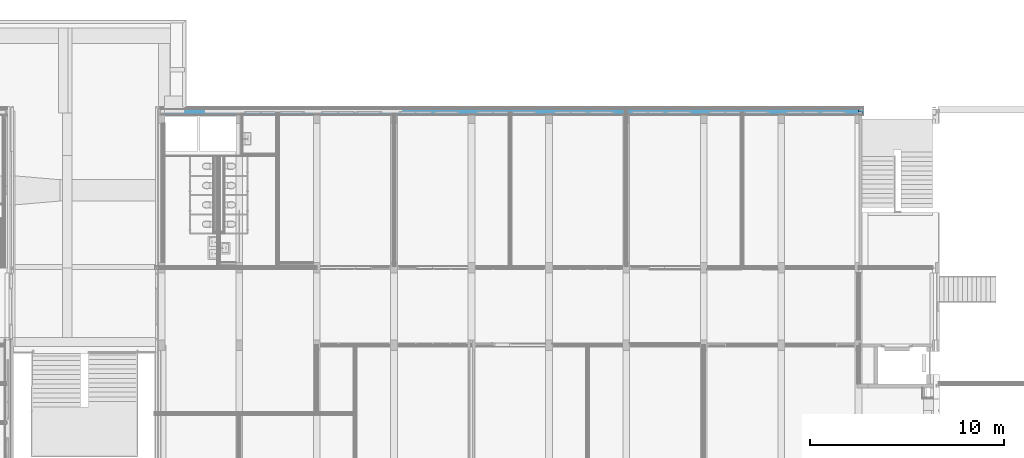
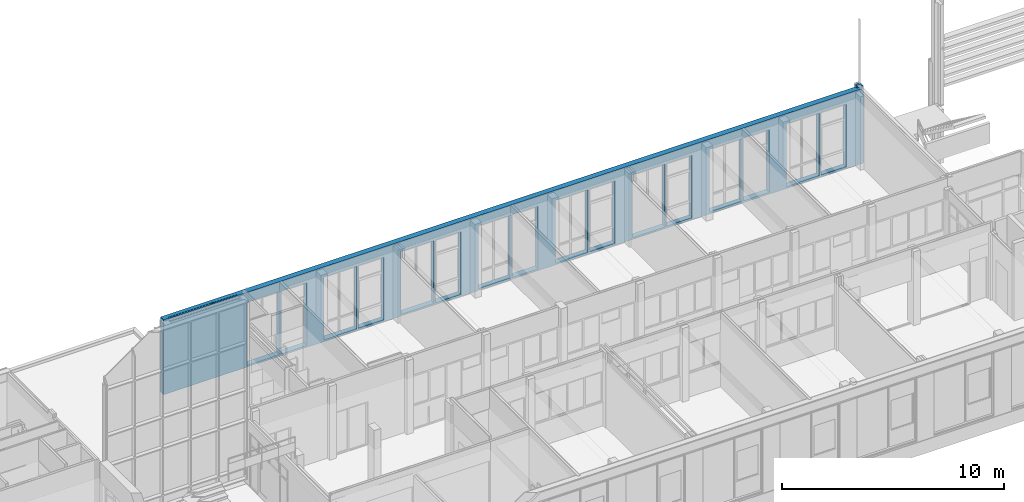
# One storey, part 59 of 94: 1 building element part, 16 openings, 1 element without a shape of its own.
"""IFC2X3 building model written with IfcOpenShell, lengths in millimetres."""

from ifc_helpers import new_model, entity, si_unit, converted_unit, derived_unit, money_unit, direction, frame, origin_with_axes, place, context, subcontext, project, spatial, faceted_brep, material, type_object, element, aggregate, save


model = new_model("IFC2X3")

# Units and contexts
model_context = context("Model", 3, precision=0.01, world=origin_with_axes(), true_north=direction((0.0, 1.0)))
body_context = subcontext(model_context, "Body", "Model", "MODEL_VIEW")
ifc_project = project(units=[si_unit("LENGTHUNIT", "METRE", prefix="MILLI"), si_unit("AREAUNIT", "SQUARE_METRE"), si_unit("VOLUMEUNIT", "CUBIC_METRE"), converted_unit("PLANEANGLEUNIT", "DEGREE", entity("IfcPlaneAngleMeasure", 0.0174532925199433), si_unit("PLANEANGLEUNIT", "RADIAN"), dimensions=[0, 0, 0, 0, 0, 0, 0]), money_unit("EUR"), converted_unit("TIMEUNIT", "Year", entity("IfcTimeMeasure", 31557600.0), si_unit("TIMEUNIT", "SECOND"), dimensions=[0, 0, 1, 0, 0, 0, 0]), si_unit("MASSUNIT", "GRAM", prefix="KILO"), si_unit("THERMODYNAMICTEMPERATUREUNIT", "DEGREE_CELSIUS"), si_unit("LUMINOUSINTENSITYUNIT", "LUMEN"), si_unit("ENERGYUNIT", "JOULE", prefix="MEGA"), derived_unit("THERMALCONDUCTANCEUNIT", [(si_unit("POWERUNIT", "WATT"), 1), (si_unit("LENGTHUNIT", "METRE"), -1), (si_unit("THERMODYNAMICTEMPERATUREUNIT", "KELVIN"), -1)]), derived_unit("SPECIFICHEATCAPACITYUNIT", [(si_unit("ENERGYUNIT", "JOULE"), 1), (si_unit("MASSUNIT", "GRAM", prefix="KILO"), -1), (si_unit("THERMODYNAMICTEMPERATUREUNIT", "KELVIN"), -1)]), derived_unit("MASSDENSITYUNIT", [(si_unit("MASSUNIT", "GRAM", prefix="KILO"), 1), (si_unit("VOLUMEUNIT", "CUBIC_METRE"), -1)])], contexts=[model_context])

# Site, building, storey
site_placement = place(None, origin_with_axes())
site = spatial("IfcSite", under=ifc_project, at=site_placement, Name="<site naam>", CompositionType="ELEMENT")
building_placement = place(site_placement, origin_with_axes())
building = spatial("IfcBuilding", under=site, at=building_placement, Name="<Naam gebouw>", CompositionType="ELEMENT")
storey_placement = place(building_placement, frame((0.0, 0.0, 4250.0), z_axis=(0.0, 0.0, 1.0), x_axis=(1.0, 0.0, 0.0)))
storey = spatial("IfcBuildingStorey", under=building, at=storey_placement, Name="01 1e verdieping", CompositionType="ELEMENT", Elevation=4250.0)

# Wall, openings, building element part
wall_type = type_object("IfcWallType", Name="HSB_285 gevelbeplating 420", PredefinedType="NOTDEFINED")
wall_placement = place(storey_placement, frame((48251.99999966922, 20298.00000000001, 0.0), z_axis=(0.0, 0.0, 1.0), x_axis=(-1.0, 0.0, 0.0)))
wall = element("IfcWall", 1, at=wall_placement, inside=storey, type_object=wall_type, Name="21_Binnenwand_HSB_285")
opening_1_placement = place(wall_placement, frame((3140.999999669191, 0.0, 99.99999999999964), z_axis=(0.0, 0.0, 1.0), x_axis=(1.0, 0.0, 0.0)))
element("IfcOpeningElement", 2, at=opening_1_placement, cuts=wall, Name="21_BU-A-12a sp_305", context=body_context, shape_type="Brep", body=[
    faceted_brep([(850.9999999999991, 213.000000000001, 3450.0), (-850.9999999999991, 213.000000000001, 3450.0), (-850.9999999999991, -1.000000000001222, 3450.0), (850.9999999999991, -1.000000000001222, 3450.0), (850.9999999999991, 421.000000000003, 3450.0), (-850.9999999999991, 421.000000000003, 3450.0), (-850.9999999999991, 213.000000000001, 0.0), (-850.9999999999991, -1.000000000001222, 0.0), (850.9999999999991, -1.000000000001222, 0.0), (850.9999999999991, 213.000000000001, 0.0), (850.9999999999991, 421.000000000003, 0.0), (-850.9999999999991, 421.000000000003, 0.0)], [[[0, 1, 2, 3]], [[1, 0, 4, 5]], [[1, 6, 7, 2]], [[2, 7, 8, 3]], [[9, 0, 3, 8]], [[0, 9, 10, 4]], [[4, 10, 11, 5]], [[6, 1, 5, 11]], [[6, 9, 8, 7]], [[9, 6, 11, 10]]]),
])
opening_2_placement = place(wall_placement, frame((1551.00001094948, 0.0, 99.99999999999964), z_axis=(0.0, 0.0, 1.0), x_axis=(1.0, 0.0, 0.0)))
element("IfcOpeningElement", 3, at=opening_2_placement, cuts=wall, Name="21_BU-A-12b sp_305", context=body_context, shape_type="Brep", body=[
    faceted_brep([(662.9999999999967, 213.000000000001, 3450.0), (-662.9999999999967, 213.000000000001, 3450.0), (-662.9999999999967, -1.000000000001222, 3450.0), (662.9999999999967, -1.000000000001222, 3450.0), (662.9999999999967, 421.000000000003, 3450.0), (-662.9999999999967, 421.000000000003, 3450.0), (-662.9999999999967, 213.000000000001, 0.0), (-662.9999999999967, -1.000000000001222, 0.0), (662.9999999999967, -1.000000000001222, 0.0), (662.9999999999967, 213.000000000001, 0.0), (662.9999999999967, 421.000000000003, 0.0), (-662.9999999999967, 421.000000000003, 0.0)], [[[0, 1, 2, 3]], [[1, 0, 4, 5]], [[1, 6, 7, 2]], [[2, 7, 8, 3]], [[9, 0, 3, 8]], [[0, 9, 10, 4]], [[4, 10, 11, 5]], [[6, 1, 5, 11]], [[6, 9, 8, 7]], [[9, 6, 11, 10]]]),
])
opening_3_placement = place(wall_placement, frame((7140.999999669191, 0.0, 99.99999999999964), z_axis=(0.0, 0.0, 1.0), x_axis=(1.0, 0.0, 0.0)))
element("IfcOpeningElement", 4, at=opening_3_placement, cuts=wall, Name="21_BU-A-12a sp_305", context=body_context, shape_type="Brep", body=[
    faceted_brep([(850.9999999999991, 213.000000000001, 3450.0), (-850.9999999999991, 213.000000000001, 3450.0), (-850.9999999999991, -1.000000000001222, 3450.0), (850.9999999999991, -1.000000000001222, 3450.0), (850.9999999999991, 421.000000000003, 3450.0), (-850.9999999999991, 421.000000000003, 3450.0), (-850.9999999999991, 213.000000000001, 0.0), (-850.9999999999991, -1.000000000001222, 0.0), (850.9999999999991, -1.000000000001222, 0.0), (850.9999999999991, 213.000000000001, 0.0), (850.9999999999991, 421.000000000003, 0.0), (-850.9999999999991, 421.000000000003, 0.0)], [[[0, 1, 2, 3]], [[1, 0, 4, 5]], [[1, 6, 7, 2]], [[2, 7, 8, 3]], [[9, 0, 3, 8]], [[0, 9, 10, 4]], [[4, 10, 11, 5]], [[6, 1, 5, 11]], [[6, 9, 8, 7]], [[9, 6, 11, 10]]]),
])
opening_4_placement = place(wall_placement, frame((9550.999999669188, 0.0, 99.99999999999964), z_axis=(0.0, 0.0, 1.0), x_axis=(1.0, 0.0, 0.0)))
element("IfcOpeningElement", 5, at=opening_4_placement, cuts=wall, Name="21_BU-A-12b sp_305", context=body_context, shape_type="Brep", body=[
    faceted_brep([(662.9999999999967, 213.000000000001, 3450.0), (-662.9999999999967, 213.000000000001, 3450.0), (-662.9999999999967, -1.000000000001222, 3450.0), (662.9999999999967, -1.000000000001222, 3450.0), (662.9999999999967, 421.000000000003, 3450.0), (-662.9999999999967, 421.000000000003, 3450.0), (-662.9999999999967, 213.000000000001, 0.0), (-662.9999999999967, -1.000000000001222, 0.0), (662.9999999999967, -1.000000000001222, 0.0), (662.9999999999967, 213.000000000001, 0.0), (662.9999999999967, 421.000000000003, 0.0), (-662.9999999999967, 421.000000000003, 0.0)], [[[0, 1, 2, 3]], [[1, 0, 4, 5]], [[1, 6, 7, 2]], [[2, 7, 8, 3]], [[9, 0, 3, 8]], [[0, 9, 10, 4]], [[4, 10, 11, 5]], [[6, 1, 5, 11]], [[6, 9, 8, 7]], [[9, 6, 11, 10]]]),
])
opening_5_placement = place(wall_placement, frame((11140.99999966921, 0.0, 99.99999999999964), z_axis=(0.0, 0.0, 1.0), x_axis=(1.0, 0.0, 0.0)))
element("IfcOpeningElement", 6, at=opening_5_placement, cuts=wall, Name="21_BU-A-12a sp_305", context=body_context, shape_type="Brep", body=[
    faceted_brep([(850.9999999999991, 213.000000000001, 3450.0), (-850.9999999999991, 213.000000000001, 3450.0), (-850.9999999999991, -1.000000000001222, 3450.0), (850.9999999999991, -1.000000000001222, 3450.0), (850.9999999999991, 421.000000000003, 3450.0), (-850.9999999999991, 421.000000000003, 3450.0), (-850.9999999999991, 213.000000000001, 0.0), (-850.9999999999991, -1.000000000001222, 0.0), (850.9999999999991, -1.000000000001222, 0.0), (850.9999999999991, 213.000000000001, 0.0), (850.9999999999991, 421.000000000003, 0.0), (-850.9999999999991, 421.000000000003, 0.0)], [[[0, 1, 2, 3]], [[1, 0, 4, 5]], [[1, 6, 7, 2]], [[2, 7, 8, 3]], [[9, 0, 3, 8]], [[0, 9, 10, 4]], [[4, 10, 11, 5]], [[6, 1, 5, 11]], [[6, 9, 8, 7]], [[9, 6, 11, 10]]]),
])
opening_6_placement = place(wall_placement, frame((15140.99998838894, 0.0, 99.99999999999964), z_axis=(0.0, 0.0, 1.0), x_axis=(1.0, 0.0, 0.0)))
element("IfcOpeningElement", 7, at=opening_6_placement, cuts=wall, Name="21_BU-A-12a sp_305", context=body_context, shape_type="Brep", body=[
    faceted_brep([(850.9999999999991, 212.9999999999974, 3450.0), (-850.9999999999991, 212.9999999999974, 3450.0), (-850.9999999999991, -1.000000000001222, 3450.0), (850.9999999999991, -1.000000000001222, 3450.0), (850.9999999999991, 421.000000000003, 3450.0), (-850.9999999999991, 421.000000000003, 3450.0), (-850.9999999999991, 212.9999999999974, 0.0), (-850.9999999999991, -1.000000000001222, 0.0), (850.9999999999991, -1.000000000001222, 0.0), (850.9999999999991, 212.9999999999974, 0.0), (850.9999999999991, 421.000000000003, 0.0), (-850.9999999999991, 421.000000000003, 0.0)], [[[0, 1, 2, 3]], [[1, 0, 4, 5]], [[1, 6, 7, 2]], [[2, 7, 8, 3]], [[9, 0, 3, 8]], [[0, 9, 10, 4]], [[4, 10, 11, 5]], [[6, 1, 5, 11]], [[6, 9, 8, 7]], [[9, 6, 11, 10]]]),
])
opening_7_placement = place(wall_placement, frame((13550.99999966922, 0.0, 99.99999999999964), z_axis=(0.0, 0.0, 1.0), x_axis=(1.0, 0.0, 0.0)))
element("IfcOpeningElement", 8, at=opening_7_placement, cuts=wall, Name="21_BU-A-12b sp_305", context=body_context, shape_type="Brep", body=[
    faceted_brep([(662.9999999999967, 213.000000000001, 3450.0), (-662.9999999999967, 213.000000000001, 3450.0), (-662.9999999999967, -1.000000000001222, 3450.0), (662.9999999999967, -1.000000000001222, 3450.0), (662.9999999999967, 421.000000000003, 3450.0), (-662.9999999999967, 421.000000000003, 3450.0), (-662.9999999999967, 213.000000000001, 0.0), (-662.9999999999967, -1.000000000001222, 0.0), (662.9999999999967, -1.000000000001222, 0.0), (662.9999999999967, 213.000000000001, 0.0), (662.9999999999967, 421.000000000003, 0.0), (-662.9999999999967, 421.000000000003, 0.0)], [[[0, 1, 2, 3]], [[1, 0, 4, 5]], [[1, 6, 7, 2]], [[2, 7, 8, 3]], [[9, 0, 3, 8]], [[0, 9, 10, 4]], [[4, 10, 11, 5]], [[6, 1, 5, 11]], [[6, 9, 8, 7]], [[9, 6, 11, 10]]]),
])
opening_8_placement = place(wall_placement, frame((19140.98053610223, 0.0, 99.99999999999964), z_axis=(0.0, 0.0, 1.0), x_axis=(1.0, 0.0, 0.0)))
element("IfcOpeningElement", 9, at=opening_8_placement, cuts=wall, Name="21_BU-A-12a sp_305", context=body_context, shape_type="Brep", body=[
    faceted_brep([(850.9999999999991, 212.9999999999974, 3450.0), (-850.9999999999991, 212.9999999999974, 3450.0), (-850.9999999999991, -1.000000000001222, 3450.0), (850.9999999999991, -1.000000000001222, 3450.0), (850.9999999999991, 421.000000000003, 3450.0), (-850.9999999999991, 421.000000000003, 3450.0), (-850.9999999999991, 212.9999999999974, 0.0), (-850.9999999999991, -1.000000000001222, 0.0), (850.9999999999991, -1.000000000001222, 0.0), (850.9999999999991, 212.9999999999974, 0.0), (850.9999999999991, 421.000000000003, 0.0), (-850.9999999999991, 421.000000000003, 0.0)], [[[0, 1, 2, 3]], [[1, 0, 4, 5]], [[1, 6, 7, 2]], [[2, 7, 8, 3]], [[9, 0, 3, 8]], [[0, 9, 10, 4]], [[4, 10, 11, 5]], [[6, 1, 5, 11]], [[6, 9, 8, 7]], [[9, 6, 11, 10]]]),
])
opening_9_placement = place(wall_placement, frame((17550.99999966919, 0.0, 99.99999999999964), z_axis=(0.0, 0.0, 1.0), x_axis=(1.0, 0.0, 0.0)))
element("IfcOpeningElement", 10, at=opening_9_placement, cuts=wall, Name="21_BU-A-12b sp_305", context=body_context, shape_type="Brep", body=[
    faceted_brep([(663.0000000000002, 212.9999999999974, 3450.0), (-663.0000000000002, 212.9999999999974, 3450.0), (-663.0000000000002, -1.000000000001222, 3450.0), (663.0000000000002, -1.000000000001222, 3450.0), (663.0000000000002, 421.000000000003, 3450.0), (-663.0000000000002, 421.000000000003, 3450.0), (-663.0000000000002, 212.9999999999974, 0.0), (-663.0000000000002, -1.000000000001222, 0.0), (663.0000000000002, -1.000000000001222, 0.0), (663.0000000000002, 212.9999999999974, 0.0), (663.0000000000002, 421.000000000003, 0.0), (-663.0000000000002, 421.000000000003, 0.0)], [[[0, 1, 2, 3]], [[1, 0, 4, 5]], [[1, 6, 7, 2]], [[2, 7, 8, 3]], [[9, 0, 3, 8]], [[0, 9, 10, 4]], [[4, 10, 11, 5]], [[6, 1, 5, 11]], [[6, 9, 8, 7]], [[9, 6, 11, 10]]]),
])
opening_10_placement = place(wall_placement, frame((5550.999999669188, 0.0, 99.99999999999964), z_axis=(0.0, 0.0, 1.0), x_axis=(1.0, 0.0, 0.0)))
element("IfcOpeningElement", 11, at=opening_10_placement, cuts=wall, Name="21_BU-A-12b sp_305", context=body_context, shape_type="Brep", body=[
    faceted_brep([(662.9999999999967, 213.000000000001, 3450.0), (-662.9999999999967, 213.000000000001, 3450.0), (-662.9999999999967, -1.000000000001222, 3450.0), (662.9999999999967, -1.000000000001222, 3450.0), (662.9999999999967, 421.000000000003, 3450.0), (-662.9999999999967, 421.000000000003, 3450.0), (-662.9999999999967, 213.000000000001, 0.0), (-662.9999999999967, -1.000000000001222, 0.0), (662.9999999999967, -1.000000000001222, 0.0), (662.9999999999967, 213.000000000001, 0.0), (662.9999999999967, 421.000000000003, 0.0), (-662.9999999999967, 421.000000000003, 0.0)], [[[0, 1, 2, 3]], [[1, 0, 4, 5]], [[1, 6, 7, 2]], [[2, 7, 8, 3]], [[9, 0, 3, 8]], [[0, 9, 10, 4]], [[4, 10, 11, 5]], [[6, 1, 5, 11]], [[6, 9, 8, 7]], [[9, 6, 11, 10]]]),
])
opening_11_placement = place(wall_placement, frame((23141.0125073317, 0.0, 99.99999999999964), z_axis=(0.0, 0.0, 1.0), x_axis=(1.0, 0.0, 0.0)))
element("IfcOpeningElement", 12, at=opening_11_placement, cuts=wall, Name="21_BU-A-12a sp_305", context=body_context, shape_type="Brep", body=[
    faceted_brep([(850.9999999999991, 212.9999999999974, 3450.0), (-850.9999999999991, 212.9999999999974, 3450.0), (-850.9999999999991, -1.000000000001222, 3450.0), (850.9999999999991, -1.000000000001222, 3450.0), (850.9999999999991, 421.000000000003, 3450.0), (-850.9999999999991, 421.000000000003, 3450.0), (-850.9999999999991, 212.9999999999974, 0.0), (-850.9999999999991, -1.000000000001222, 0.0), (850.9999999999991, -1.000000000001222, 0.0), (850.9999999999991, 212.9999999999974, 0.0), (850.9999999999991, 421.000000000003, 0.0), (-850.9999999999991, 421.000000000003, 0.0)], [[[0, 1, 2, 3]], [[1, 0, 4, 5]], [[1, 6, 7, 2]], [[2, 7, 8, 3]], [[9, 0, 3, 8]], [[0, 9, 10, 4]], [[4, 10, 11, 5]], [[6, 1, 5, 11]], [[6, 9, 8, 7]], [[9, 6, 11, 10]]]),
])
opening_12_placement = place(wall_placement, frame((21550.98053610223, 0.0, 99.99999999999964), z_axis=(0.0, 0.0, 1.0), x_axis=(1.0, 0.0, 0.0)))
element("IfcOpeningElement", 13, at=opening_12_placement, cuts=wall, Name="21_BU-A-12b sp_305", context=body_context, shape_type="Brep", body=[
    faceted_brep([(663.0000000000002, 212.9999999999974, 3450.0), (-663.0000000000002, 212.9999999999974, 3450.0), (-663.0000000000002, -1.000000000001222, 3450.0), (663.0000000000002, -1.000000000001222, 3450.0), (663.0000000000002, 421.000000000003, 3450.0), (-663.0000000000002, 421.000000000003, 3450.0), (-663.0000000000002, 212.9999999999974, 0.0), (-663.0000000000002, -1.000000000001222, 0.0), (663.0000000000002, -1.000000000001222, 0.0), (663.0000000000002, 212.9999999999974, 0.0), (663.0000000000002, 421.000000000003, 0.0), (-663.0000000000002, 421.000000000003, 0.0)], [[[0, 1, 2, 3]], [[1, 0, 4, 5]], [[1, 6, 7, 2]], [[2, 7, 8, 3]], [[9, 0, 3, 8]], [[0, 9, 10, 4]], [[4, 10, 11, 5]], [[6, 1, 5, 11]], [[6, 9, 8, 7]], [[9, 6, 11, 10]]]),
])
opening_13_placement = place(wall_placement, frame((25550.99999966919, 0.0, 99.99999999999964), z_axis=(0.0, 0.0, 1.0), x_axis=(1.0, 0.0, 0.0)))
element("IfcOpeningElement", 14, at=opening_13_placement, cuts=wall, Name="21_BU-A-12b sp_305", context=body_context, shape_type="Brep", body=[
    faceted_brep([(663.0000000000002, 212.9999999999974, 3450.0), (-663.0000000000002, 212.9999999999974, 3450.0), (-663.0000000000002, -1.000000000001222, 3450.0), (663.0000000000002, -1.000000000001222, 3450.0), (663.0000000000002, 421.000000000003, 3450.0), (-663.0000000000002, 421.000000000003, 3450.0), (-663.0000000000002, 212.9999999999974, 0.0), (-663.0000000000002, -1.000000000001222, 0.0), (663.0000000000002, -1.000000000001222, 0.0), (663.0000000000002, 212.9999999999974, 0.0), (663.0000000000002, 421.000000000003, 0.0), (-663.0000000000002, 421.000000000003, 0.0)], [[[0, 1, 2, 3]], [[1, 0, 4, 5]], [[1, 6, 7, 2]], [[2, 7, 8, 3]], [[9, 0, 3, 8]], [[0, 9, 10, 4]], [[4, 10, 11, 5]], [[6, 1, 5, 11]], [[6, 9, 8, 7]], [[9, 6, 11, 10]]]),
])
opening_14_placement = place(wall_placement, frame((27140.99999966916, 0.0, 99.99999999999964), z_axis=(0.0, 0.0, 1.0), x_axis=(1.0, 0.0, 0.0)))
element("IfcOpeningElement", 15, at=opening_14_placement, cuts=wall, Name="21_BU-A-12a sp_305", context=body_context, shape_type="Brep", body=[
    faceted_brep([(850.9999999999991, 212.9999999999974, 3450.0), (-850.9999999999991, 212.9999999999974, 3450.0), (-850.9999999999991, -1.000000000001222, 3450.0), (850.9999999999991, -1.000000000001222, 3450.0), (850.9999999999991, 421.000000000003, 3450.0), (-850.9999999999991, 421.000000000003, 3450.0), (-850.9999999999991, 212.9999999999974, 0.0), (-850.9999999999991, -1.000000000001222, 0.0), (850.9999999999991, -1.000000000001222, 0.0), (850.9999999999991, 212.9999999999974, 0.0), (850.9999999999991, 421.000000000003, 0.0), (-850.9999999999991, 421.000000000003, 0.0)], [[[0, 1, 2, 3]], [[1, 0, 4, 5]], [[1, 6, 7, 2]], [[2, 7, 8, 3]], [[9, 0, 3, 8]], [[0, 9, 10, 4]], [[4, 10, 11, 5]], [[6, 1, 5, 11]], [[6, 9, 8, 7]], [[9, 6, 11, 10]]]),
])
opening_15_placement = place(wall_placement, frame((29551.00001094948, 0.0, 99.99999999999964), z_axis=(0.0, 0.0, 1.0), x_axis=(1.0, 0.0, 0.0)))
element("IfcOpeningElement", 16, at=opening_15_placement, cuts=wall, Name="21_BU-A-12b sp_305", context=body_context, shape_type="Brep", body=[
    faceted_brep([(663.0000000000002, 212.9999999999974, 3450.0), (-663.0000000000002, 212.9999999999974, 3450.0), (-663.0000000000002, -1.000000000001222, 3450.0), (663.0000000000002, -1.000000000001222, 3450.0), (663.0000000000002, 421.000000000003, 3450.0), (-663.0000000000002, 421.000000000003, 3450.0), (-663.0000000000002, 212.9999999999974, 0.0), (-663.0000000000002, -1.000000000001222, 0.0), (663.0000000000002, -1.000000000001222, 0.0), (663.0000000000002, 212.9999999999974, 0.0), (663.0000000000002, 421.000000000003, 0.0), (-663.0000000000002, 421.000000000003, 0.0)], [[[0, 1, 2, 3]], [[1, 0, 4, 5]], [[1, 6, 7, 2]], [[2, 7, 8, 3]], [[9, 0, 3, 8]], [[0, 9, 10, 4]], [[4, 10, 11, 5]], [[6, 1, 5, 11]], [[6, 9, 8, 7]], [[9, 6, 11, 10]]]),
])
opening_16_placement = place(wall_placement, frame((31140.99998838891, 0.0, 99.99999999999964), z_axis=(0.0, 0.0, 1.0), x_axis=(1.0, 0.0, 0.0)))
element("IfcOpeningElement", 17, at=opening_16_placement, cuts=wall, Name="21_BU-A-12a sp_305", context=body_context, shape_type="Brep", body=[
    faceted_brep([(850.9999999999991, 212.9999999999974, 3450.0), (-850.9999999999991, 212.9999999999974, 3450.0), (-850.9999999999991, -1.000000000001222, 3450.0), (850.9999999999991, -1.000000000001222, 3450.0), (850.9999999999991, 421.000000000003, 3450.0), (-850.9999999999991, 421.000000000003, 3450.0), (-850.9999999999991, 212.9999999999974, 0.0), (-850.9999999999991, -1.000000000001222, 0.0), (850.9999999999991, -1.000000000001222, 0.0), (850.9999999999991, 212.9999999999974, 0.0), (850.9999999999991, 421.000000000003, 0.0), (-850.9999999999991, 421.000000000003, 0.0)], [[[0, 1, 2, 3]], [[1, 0, 4, 5]], [[1, 6, 7, 2]], [[2, 7, 8, 3]], [[9, 0, 3, 8]], [[0, 9, 10, 4]], [[4, 10, 11, 5]], [[6, 1, 5, 11]], [[6, 9, 8, 7]], [[9, 6, 11, 10]]]),
])
ifc_material = material(Name="isolatie_houtvezel")
building_element_part_placement = place(wall_placement, origin_with_axes())
building_element_part = element("IfcBuildingElementPart", 18, at=building_element_part_placement, material=ifc_material, Name="isolatie_houtvezel", context=body_context, shape_type="Brep", body=[
    faceted_brep([(251.999999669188, 133.0000071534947, 4250.0), (251.999999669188, 232.9999999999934, 4250.0), (76.92214540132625, 232.9999999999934, 4250.0), (76.92214540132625, 391.9999999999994, 4250.0), (0.0, 391.9999999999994, 4250.0), (0.0, 106.9999999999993, 4250.0), (251.999999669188, 106.9999999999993, 4250.0), (251.999999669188, 106.9999999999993, 4220.000000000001), (251.999999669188, 107.0000000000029, 4100.0), (251.999999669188, 232.9999999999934, 4100.0), (76.92214540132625, 232.9999999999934, 4100.0), (76.92214540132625, 392.000000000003, 4100.0), (36076.99999966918, 391.9999999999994, 4100.0), (36316.99999966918, 391.9999999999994, 4100.0), (36316.99999966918, 391.9999999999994, 0.0), (32077.00006361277, 391.9999999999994, 0.0), (32077.00006361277, 391.9999999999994, 3.000000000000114), (30327.06166482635, 391.9999999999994, 3.000000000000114), (30327.06166482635, 391.9999999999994, 0.0), (24076.99999971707, 391.9999999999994, 0.0), (24076.99999971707, 391.9999999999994, 3.000000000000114), (20427.00000146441, 392.000000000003, 3.000000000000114), (20427.00000146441, 391.9999999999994, 0.0), (20076.98057049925, 391.9999999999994, 0.0), (20076.98057049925, 391.9999999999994, 3.000000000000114), (18326.86255402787, 392.000000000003, 3.000000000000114), (18326.86255402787, 391.9999999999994, 0.0), (18176.86513133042, 391.9999999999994, 0.0), (18176.86513133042, 391.9999999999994, 3.000000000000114), (16426.99993484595, 392.000000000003, 3.000000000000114), (16426.99993484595, 391.9999999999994, 0.0), (16076.99985984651, 391.9999999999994, 0.0), (16076.99985984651, 391.9999999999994, 3.000000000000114), (12426.99985761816, 392.000000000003, 3.000000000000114), (12426.99985761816, 391.9999999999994, 0.0), (0.0, 391.9999999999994, 0.0), (32426.99999966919, 391.9999999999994, 4100.0), (32426.99999966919, 391.9999999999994, 4090.499903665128), (36076.99999966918, 391.9999999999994, 4090.499903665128), (28077.00005377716, 391.9999999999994, 22.99999999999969), (24427.00006108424, 391.9999999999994, 22.99999999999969), (24427.00006108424, 391.9999999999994, 19.99999999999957), (28077.00005377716, 391.9999999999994, 19.99999999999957), (30177.06159675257, 391.9999999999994, 22.99999999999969), (28426.99998301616, 391.9999999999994, 22.99999999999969), (28426.99998301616, 391.9999999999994, 19.99999999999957), (30177.06159675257, 391.9999999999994, 19.99999999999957), (8077.00010120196, 392.000000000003, 22.99999999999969), (6326.99981685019, 392.000000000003, 22.99999999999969), (6326.99981685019, 392.000000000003, 19.99999999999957), (8077.00010120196, 392.000000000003, 19.99999999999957), (12076.9999884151, 391.9999999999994, 22.99999999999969), (8427.000063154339, 392.000000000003, 22.99999999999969), (8427.000063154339, 392.000000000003, 19.99999999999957), (12076.9999884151, 392.000000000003, 19.99999999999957), (4076.999959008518, 392.000000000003, 22.99999999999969), (427.0000192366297, 392.000000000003, 22.99999999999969), (427.0000192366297, 392.000000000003, 19.99999999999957), (4076.999959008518, 392.000000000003, 19.99999999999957), (6176.999971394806, 392.000000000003, 22.99999999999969), (4426.999980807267, 392.000000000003, 22.99999999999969), (4426.999980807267, 392.000000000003, 19.99999999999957), (6176.999971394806, 392.000000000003, 19.99999999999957), (32426.99999966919, 391.9999999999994, 3938.499955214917), (32426.99999966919, 391.9999999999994, 3928.999844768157), (36076.99999966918, 391.9999999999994, 3928.999844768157), (36076.99999966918, 391.9999999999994, 3938.499955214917), (0.0, 106.9999999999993, 0.0), (35076.99999966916, 106.9999999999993, 0.0), (35076.99999966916, 106.9999999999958, 150.0000000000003), (36106.0753710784, 106.9999999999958, 150.0000000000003), (36106.0753710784, 106.9999999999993, 0.0), (36316.99999966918, 106.9999999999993, 0.0), (36316.99999966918, 106.9999999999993, 4100.0), (36076.99999966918, 307.9999820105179, 4100.0), (32426.99999966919, 307.9999820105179, 4100.0), (36106.0753710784, 298.0000000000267, 0.0), (35076.99999966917, 298.0000000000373, 0.0), (12426.99985761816, 373.0001063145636, 0.0), (16076.99985984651, 373.0001063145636, 0.0), (16426.99993484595, 373.0001063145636, 0.0), (18176.86513133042, 373.0001063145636, 0.0), (18326.86255402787, 373.0000038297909, 0.0), (20076.98057049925, 373.0000038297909, 0.0), (20427.00000146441, 373.0000038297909, 0.0), (24076.99999971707, 373.0000038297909, 0.0), (30327.06166482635, 373.0000861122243, 0.0), (32077.00006389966, 373.0000861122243, 0.0), (32077.00006389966, 373.0000861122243, 3.000000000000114), (30327.06166482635, 373.0000861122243, 3.000000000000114), (24076.99999971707, 373.0000038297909, 3.000000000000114), (20427.00000146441, 373.0000038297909, 3.000000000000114), (20076.98057049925, 373.0000038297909, 3.000000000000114), (18326.86255402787, 373.0000038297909, 3.000000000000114), (18176.86513133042, 373.0001063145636, 3.000000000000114), (16426.99993484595, 373.0001063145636, 3.000000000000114), (16076.99985984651, 373.0001063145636, 3.000000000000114), (12426.99985761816, 373.0001063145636, 3.000000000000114), (32426.99999966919, 307.9999840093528, 4090.499903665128), (36076.99999966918, 307.9999840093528, 4090.499903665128), (28077.00005377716, 372.9999128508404, 22.99999999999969), (24427.00006108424, 372.9999128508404, 22.99999999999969), (24427.00006108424, 372.9999128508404, 19.99999999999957), (28077.00005377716, 372.9999128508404, 19.99999999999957), (30177.06159675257, 372.9999128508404, 22.99999999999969), (28426.99998301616, 372.9999128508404, 22.99999999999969), (28426.99998301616, 372.9999128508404, 19.99999999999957), (30177.06159675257, 372.9999128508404, 19.99999999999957), (8077.00010120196, 372.9998278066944, 22.99999999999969), (6326.99981685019, 372.9998278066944, 22.99999999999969), (6326.99981685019, 372.9998278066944, 19.99999999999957), (8077.00010120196, 372.9998278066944, 19.99999999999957), (12076.9999884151, 226.4831030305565, 22.99999999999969), (8427.000063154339, 226.4831030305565, 22.99999999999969), (8427.000063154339, 226.4831030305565, 19.99999999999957), (12076.9999884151, 226.4831030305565, 19.99999999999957), (4076.999959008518, 372.9998638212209, 22.99999999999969), (427.0000192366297, 372.9998638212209, 22.99999999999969), (427.0000192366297, 372.9998638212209, 19.99999999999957), (4076.999959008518, 372.9998638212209, 19.99999999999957), (6176.999971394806, 372.9998638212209, 22.99999999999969), (4426.999980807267, 372.9998638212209, 22.99999999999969), (4426.999980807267, 372.9998638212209, 19.99999999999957), (6176.999971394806, 372.9998638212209, 19.99999999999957), (32426.99999966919, 307.9999840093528, 3938.499955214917), (32426.99999966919, 307.9999820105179, 3928.999844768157), (36076.99999966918, 307.9999820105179, 3928.999844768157), (36076.99999966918, 307.9999840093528, 3938.499955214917), (35076.99999966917, 298.0000000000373, 150.0000000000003), (36106.0753710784, 298.0000000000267, 150.0000000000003)], [[[0, 1, 2, 3, 4, 5, 6]], [[0, 6, 7, 8, 9, 1]], [[2, 1, 9, 10]], [[3, 2, 10, 11]], [[12, 13, 14, 15, 16, 17, 18, 19, 20, 21, 22, 23, 24, 25, 26, 27, 28, 29, 30, 31, 32, 33, 34, 35, 4, 3, 11, 36, 37, 38], [39, 40, 41, 42], [43, 44, 45, 46], [47, 48, 49, 50], [51, 52, 53, 54], [55, 56, 57, 58], [59, 60, 61, 62], [63, 64, 65, 66]], [[35, 67, 5, 4]], [[8, 7, 6, 5, 67, 68, 69, 70, 71, 72, 73]], [[36, 11, 10, 9, 8, 73, 13, 12, 74, 75]], [[13, 73, 72, 14]], [[71, 76, 77, 68, 67, 35, 34, 78, 79, 31, 30, 80, 81, 27, 26, 82, 83, 23, 22, 84, 85, 19, 18, 86, 87, 15, 14, 72]], [[87, 88, 16, 15]], [[16, 88, 89, 17]], [[18, 17, 89, 86]], [[85, 90, 20, 19]], [[20, 90, 91, 21]], [[22, 21, 91, 84]], [[83, 92, 24, 23]], [[24, 92, 93, 25]], [[26, 25, 93, 82]], [[81, 94, 28, 27]], [[28, 94, 95, 29]], [[30, 29, 95, 80]], [[79, 96, 32, 31]], [[32, 96, 97, 33]], [[34, 33, 97, 78]], [[36, 75, 98, 37]], [[98, 99, 38, 37]], [[74, 12, 38, 99]], [[39, 100, 101, 40]], [[40, 101, 102, 41]], [[41, 102, 103, 42]], [[42, 103, 100, 39]], [[43, 104, 105, 44]], [[44, 105, 106, 45]], [[45, 106, 107, 46]], [[46, 107, 104, 43]], [[47, 108, 109, 48]], [[48, 109, 110, 49]], [[49, 110, 111, 50]], [[50, 111, 108, 47]], [[51, 112, 113, 52]], [[52, 113, 114, 53]], [[53, 114, 115, 54]], [[54, 115, 112, 51]], [[55, 116, 117, 56]], [[56, 117, 118, 57]], [[57, 118, 119, 58]], [[58, 119, 116, 55]], [[59, 120, 121, 60]], [[60, 121, 122, 61]], [[61, 122, 123, 62]], [[62, 123, 120, 59]], [[124, 125, 64, 63]], [[125, 126, 65, 64]], [[126, 127, 66, 65]], [[127, 124, 63, 66]], [[77, 128, 69, 68]], [[128, 129, 70, 69]], [[129, 76, 71, 70]], [[75, 74, 99, 98]], [[129, 128, 77, 76]], [[78, 97, 96, 79]], [[80, 95, 94, 81]], [[82, 93, 92, 83]], [[84, 91, 90, 85]], [[86, 89, 88, 87]], [[100, 103, 102, 101]], [[104, 107, 106, 105]], [[108, 111, 110, 109]], [[112, 115, 114, 113]], [[116, 119, 118, 117]], [[120, 123, 122, 121]], [[126, 125, 124, 127]]]),
])
aggregate(wall, [building_element_part])

save(model, "model.ifc")
